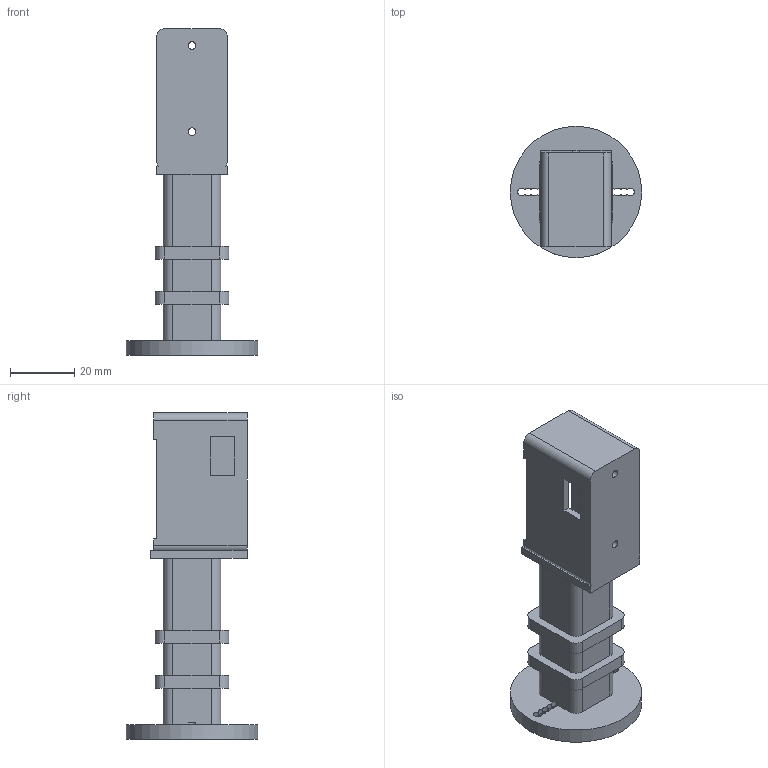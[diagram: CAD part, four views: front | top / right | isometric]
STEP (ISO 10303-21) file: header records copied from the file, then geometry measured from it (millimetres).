
FILE_DESCRIPTION(('Open CASCADE Model'),'2;1');
FILE_NAME('Open CASCADE Shape Model','2026-11-19T06:39:58',('Author'),( 'Open CASCADE'),'Open CASCADE STEP processor 8.0','Open CASCADE 8.0' ,'Unknown');
FILE_SCHEMA(('AUTOMOTIVE_DESIGN { 1 0 10303 214 1 1 1 1 }'));
Length unit declared in the file: millimetre
Products named in the file (1): Open CASCADE STEP translator 8.0 20
Bounding box: 41 x 41 x 101.9 mm (x, y, z)
Volume: 31195.3 mm3; surface area: 17265.1 mm2
Topology: 1 solids, 1 shells, 131 faces, 372 edges, 248 vertices
Faces by surface type: plane 70, cylinder 61
Full cylindrical faces by diameter (mm): 2.4 x2, 4.8 x1, 41 x1
Entity records: 9030 total; most frequent: CARTESIAN_POINT 1886, DIRECTION 1262, ORIENTED_EDGE 744, PCURVE 744, DEFINITIONAL_REPRESENTATION 744, LINE 630, VECTOR 630, EDGE_CURVE 372
